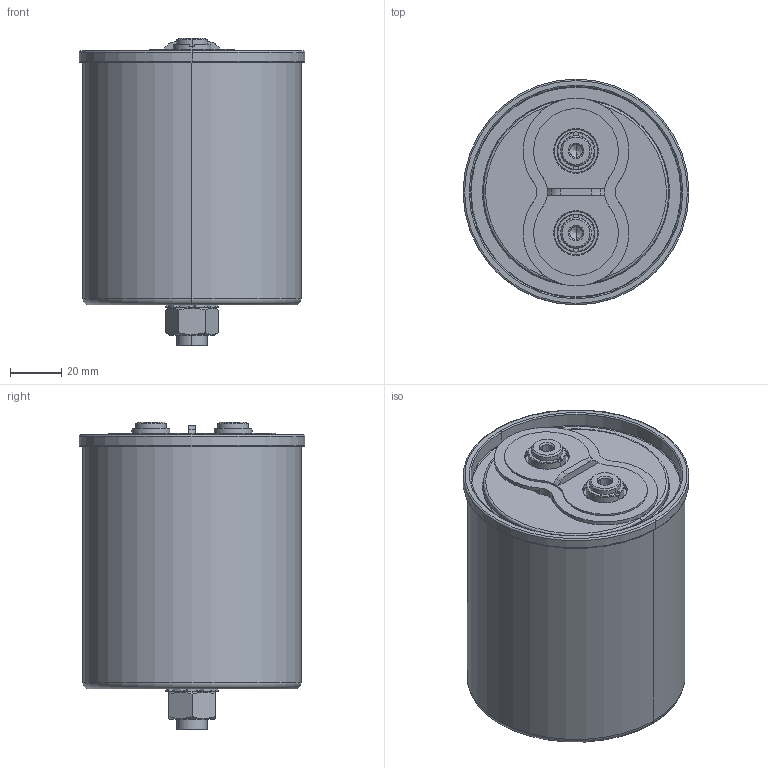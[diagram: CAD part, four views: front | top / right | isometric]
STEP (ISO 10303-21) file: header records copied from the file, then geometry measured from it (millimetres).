
FILE_DESCRIPTION (( 'STEP AP203' ), '1' );
FILE_NAME ('B25680Bx_85x99_104.STEP', '2021-09-10T02:29:38', ( '' ), ( '' ), 'SwSTEP 2.0', 'SolidWorks 2017', '' );
FILE_SCHEMA (( 'CONFIG_CONTROL_DESIGN' ));
Length unit declared in the file: millimetre
Products named in the file (1): B25680Bx_85x99_104
Bounding box: 88 x 88 x 120 mm (x, y, z)
Volume: 58955.7 mm3; surface area: 96605.8 mm2
Topology: 1 solids, 9 shells, 413 faces, 974 edges, 606 vertices
Faces by surface type: plane 163, cylinder 142, cone 42, bspline 40, torus 26
Entity records: 15074 total; most frequent: CARTESIAN_POINT 5392, DIRECTION 2126, ORIENTED_EDGE 1940, EDGE_CURVE 970, AXIS2_PLACEMENT_3D 852, VERTEX_POINT 606, CIRCLE 478, EDGE_LOOP 460
